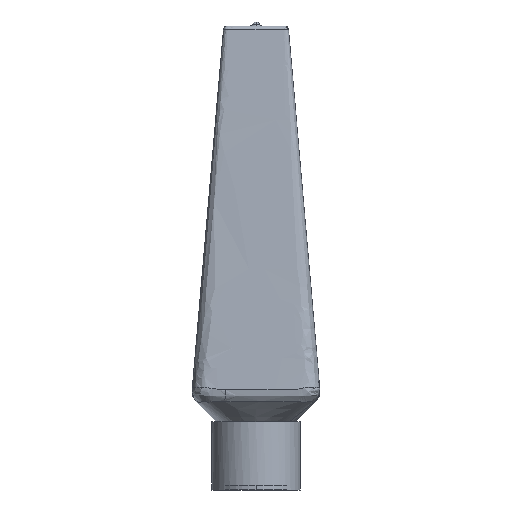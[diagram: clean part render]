
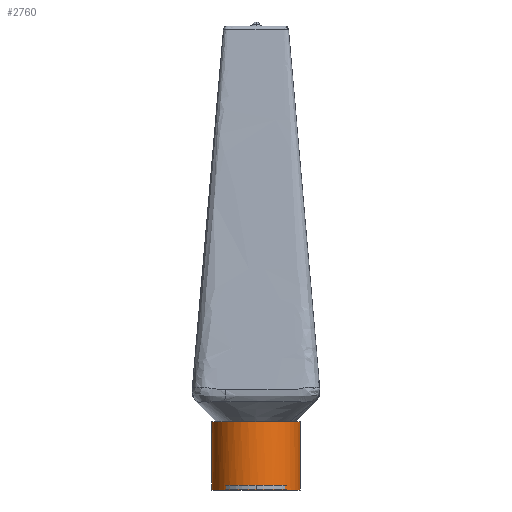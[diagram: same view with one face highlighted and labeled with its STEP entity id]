
A CAD part, front view. The second image highlights one B-rep face of the part: STEP entity #2760.
In plain terms, the highlighted cylindrical face has radius 55 mm (diameter 110 mm), a partial arc.
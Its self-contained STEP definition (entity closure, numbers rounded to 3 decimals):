
#319 = CARTESIAN_POINT ( 'NONE',  ( -54.854, -4., -32.236 ) ) ;
#370 = CARTESIAN_POINT ( 'NONE',  ( -54.854, -4., 42.5 ) ) ;
#371 = CARTESIAN_POINT ( 'NONE',  ( -54.854, -4., -32.5 ) ) ;
#403 = DIRECTION ( 'NONE',  ( 1., 0., 0. ) ) ;
#481 = CARTESIAN_POINT ( 'NONE',  ( -54.891, -3.469, -30.492 ) ) ;
#1637 = CARTESIAN_POINT ( 'NONE',  ( -55., 0., -28.5 ) ) ;
#2058 = CARTESIAN_POINT ( 'NONE',  ( -54.83, -4.334, -41.834 ) ) ;
#2076 = CARTESIAN_POINT ( 'NONE',  ( 0., 0., 42.5 ) ) ;
#2760 = ADVANCED_FACE ( 'NONE', ( #25642 ), #15479, .T. ) ;
#2876 = CARTESIAN_POINT ( 'NONE',  ( -54.937, -2.641, -29.484 ) ) ;
#2942 = LINE ( 'NONE', #370, #9423 ) ;
#2976 = DIRECTION ( 'NONE',  ( 0., 0., 1. ) ) ;
#3054 = CARTESIAN_POINT ( 'NONE',  ( -54.946, -2.439, -29.319 ) ) ;
#3224 = CARTESIAN_POINT ( 'NONE',  ( -54.908, -3.18, -30.059 ) ) ;
#3582 = CARTESIAN_POINT ( 'NONE',  ( -54.869, -3.795, -31.21 ) ) ;
#4829 = VERTEX_POINT ( 'NONE', #29899 ) ;
#4870 = EDGE_CURVE ( 'NONE', #13711, #12651, #9144, .T. ) ;
#5742 = VERTEX_POINT ( 'NONE', #21166 ) ;
#5977 = CARTESIAN_POINT ( 'NONE',  ( -54.998, -0.526, -28.526 ) ) ;
#6144 = CARTESIAN_POINT ( 'NONE',  ( -54.964, -2.006, -29.029 ) ) ;
#7048 = CARTESIAN_POINT ( 'NONE',  ( -54.854, -4., -41.5 ) ) ;
#7052 = AXIS2_PLACEMENT_3D ( 'NONE', #2076, #18238, #7741 ) ;
#7741 = DIRECTION ( 'NONE',  ( -1., 0., 0. ) ) ;
#9144 = B_SPLINE_CURVE_WITH_KNOTS ( 'NONE', 3,
 ( #29721, #16290, #5977, #16460, #10973, #26790, #6144, #3054, #2876, #16639, #3224, #481, #29546, #3582, #13379, #29209, #319, #26961 ),
 .UNSPECIFIED., .F., .F.,
 ( 4, 2, 2, 2, 2, 2, 2, 2, 4 ),
 ( 0.006, 0.007, 0.008, 0.009, 0.009, 0.01, 0.011, 0.012, 0.013 ),
 .UNSPECIFIED. ) ;
#9150 = ORIENTED_EDGE ( 'NONE', *, *, #12772, .F. ) ;
#9222 = EDGE_CURVE ( 'NONE', #4829, #19532, #15003, .T. ) ;
#9423 = VECTOR ( 'NONE', #21333, 1000. ) ;
#9477 = CIRCLE ( 'NONE', #29780, 55. ) ;
#10592 = CIRCLE ( 'NONE', #28176, 55. ) ;
#10944 = ORIENTED_EDGE ( 'NONE', *, *, #21402, .T. ) ;
#10973 = CARTESIAN_POINT ( 'NONE',  ( -54.985, -1.288, -28.704 ) ) ;
#11373 = CARTESIAN_POINT ( 'NONE',  ( 55., 0., 42.5 ) ) ;
#12651 = VERTEX_POINT ( 'NONE', #371 ) ;
#12772 = EDGE_CURVE ( 'NONE', #33863, #5742, #26508, .T. ) ;
#12950 = CARTESIAN_POINT ( 'NONE',  ( 0., 0., -42.5 ) ) ;
#13379 = CARTESIAN_POINT ( 'NONE',  ( -54.864, -3.871, -31.459 ) ) ;
#13711 = VERTEX_POINT ( 'NONE', #1637 ) ;
#14489 = ORIENTED_EDGE ( 'NONE', *, *, #31276, .T. ) ;
#14827 = CARTESIAN_POINT ( 'NONE',  ( -54.772, -5., -42.5 ) ) ;
#14973 = CARTESIAN_POINT ( 'NONE',  ( -54.803, -4.667, -42.167 ) ) ;
#15003 =( BOUNDED_CURVE ( )  B_SPLINE_CURVE ( 3, ( #7048, #2058, #14973, #30469 ),
 .UNSPECIFIED., .F., .F. ) 
 B_SPLINE_CURVE_WITH_KNOTS ( ( 4, 4 ),
 ( 4.785, 4.803 ),
 .UNSPECIFIED. ) 
 CURVE ( )  GEOMETRIC_REPRESENTATION_ITEM ( )  RATIONAL_B_SPLINE_CURVE ( ( 1., 1., 1., 1. ) ) 
 REPRESENTATION_ITEM ( '' )  );
#15479 = CYLINDRICAL_SURFACE ( 'NONE', #7052, 55. ) ;
#15590 = ORIENTED_EDGE ( 'NONE', *, *, #22689, .F. ) ;
#15760 = CARTESIAN_POINT ( 'NONE',  ( 0., 0., 42.5 ) ) ;
#16290 = CARTESIAN_POINT ( 'NONE',  ( -55., -0.261, -28.5 ) ) ;
#16431 = LINE ( 'NONE', #27275, #16525 ) ;
#16460 = CARTESIAN_POINT ( 'NONE',  ( -54.991, -1.038, -28.628 ) ) ;
#16525 = VECTOR ( 'NONE', #30034, 1000. ) ;
#16639 = CARTESIAN_POINT ( 'NONE',  ( -54.918, -3.014, -29.857 ) ) ;
#18238 = DIRECTION ( 'NONE',  ( 0., 0., -1. ) ) ;
#19532 = VERTEX_POINT ( 'NONE', #14827 ) ;
#19614 = CARTESIAN_POINT ( 'NONE',  ( -55., 0., 42.5 ) ) ;
#19750 = CARTESIAN_POINT ( 'NONE',  ( 55., 0., 42.5 ) ) ;
#20944 = ORIENTED_EDGE ( 'NONE', *, *, #4870, .T. ) ;
#21166 = CARTESIAN_POINT ( 'NONE',  ( 55., 0., -42.5 ) ) ;
#21318 = ORIENTED_EDGE ( 'NONE', *, *, #9222, .T. ) ;
#21333 = DIRECTION ( 'NONE',  ( 0., 0., -1. ) ) ;
#21402 = EDGE_CURVE ( 'NONE', #12651, #4829, #2942, .T. ) ;
#21662 = VERTEX_POINT ( 'NONE', #19614 ) ;
#22689 = EDGE_CURVE ( 'NONE', #21662, #33863, #9477, .T. ) ;
#23288 = VECTOR ( 'NONE', #29441, 1000. ) ;
#24006 = DIRECTION ( 'NONE',  ( 0., 0., 1. ) ) ;
#24930 = ORIENTED_EDGE ( 'NONE', *, *, #25350, .T. ) ;
#25350 = EDGE_CURVE ( 'NONE', #19532, #5742, #10592, .T. ) ;
#25642 = FACE_OUTER_BOUND ( 'NONE', #26448, .T. ) ;
#26251 = DIRECTION ( 'NONE',  ( 1., 0., 0. ) ) ;
#26448 = EDGE_LOOP ( 'NONE', ( #9150, #15590, #14489, #20944, #10944, #21318, #24930 ) ) ;
#26508 = LINE ( 'NONE', #11373, #23288 ) ;
#26790 = CARTESIAN_POINT ( 'NONE',  ( -54.972, -1.772, -28.904 ) ) ;
#26961 = CARTESIAN_POINT ( 'NONE',  ( -54.854, -4., -32.5 ) ) ;
#27275 = CARTESIAN_POINT ( 'NONE',  ( -55., 0., 42.5 ) ) ;
#28176 = AXIS2_PLACEMENT_3D ( 'NONE', #12950, #2976, #403 ) ;
#29209 = CARTESIAN_POINT ( 'NONE',  ( -54.856, -3.974, -31.971 ) ) ;
#29441 = DIRECTION ( 'NONE',  ( 0., 0., -1. ) ) ;
#29546 = CARTESIAN_POINT ( 'NONE',  ( -54.883, -3.594, -30.726 ) ) ;
#29721 = CARTESIAN_POINT ( 'NONE',  ( -55., 0., -28.5 ) ) ;
#29780 = AXIS2_PLACEMENT_3D ( 'NONE', #15760, #24006, #26251 ) ;
#29899 = CARTESIAN_POINT ( 'NONE',  ( -54.854, -4., -41.5 ) ) ;
#30034 = DIRECTION ( 'NONE',  ( 0., 0., -1. ) ) ;
#30469 = CARTESIAN_POINT ( 'NONE',  ( -54.772, -5., -42.5 ) ) ;
#31276 = EDGE_CURVE ( 'NONE', #21662, #13711, #16431, .T. ) ;
#33863 = VERTEX_POINT ( 'NONE', #19750 ) ;
